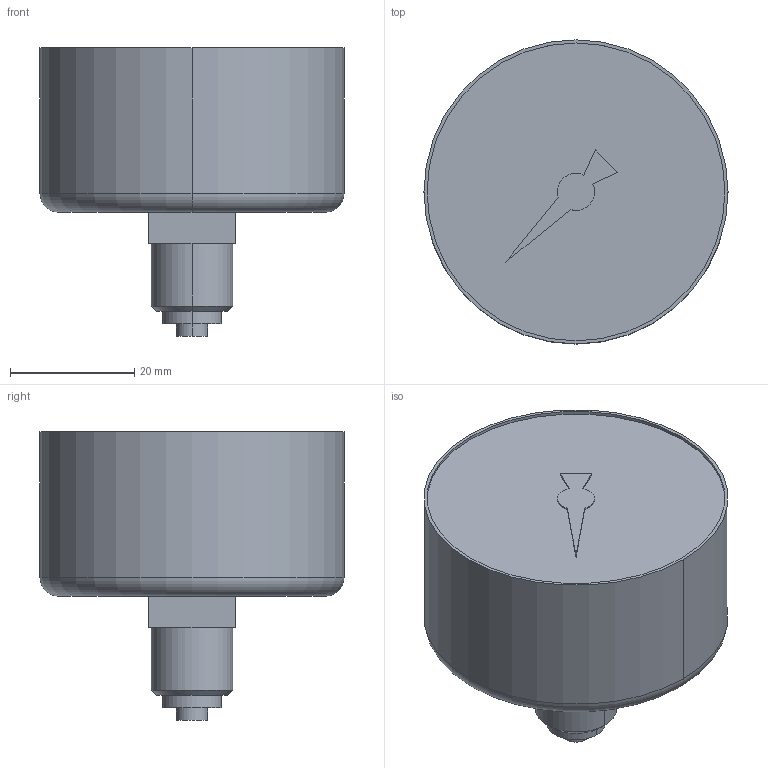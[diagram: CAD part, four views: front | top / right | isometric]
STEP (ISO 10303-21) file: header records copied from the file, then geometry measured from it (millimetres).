
FILE_DESCRIPTION((''),'2;1');
FILE_NAME('R412003477','2020-10-06T18:54:45',('GIO1HC'),(''),'CREO PARAMETRIC BY PTC INC, 2018190','CREO PARAMETRIC BY PTC INC, 2018190','');
FILE_SCHEMA(('AUTOMOTIVE_DESIGN { 1 0 10303 214 1 1 1 1 }'));
Length unit declared in the file: millimetre
Products named in the file (1): R412003477
Bounding box: 49 x 49 x 46.5 mm (x, y, z)
Volume: 51435.5 mm3; surface area: 8541.8 mm2
Topology: 1 solids, 1 shells, 33 faces, 71 edges, 46 vertices
Faces by surface type: plane 17, cylinder 12, cone 2, torus 2
Entity records: 1081 total; most frequent: DIRECTION 185, CARTESIAN_POINT 161, ORIENTED_EDGE 142, AXIS2_PLACEMENT_3D 72, EDGE_CURVE 71, VERTEX_POINT 46, VECTOR 41, LINE 41
